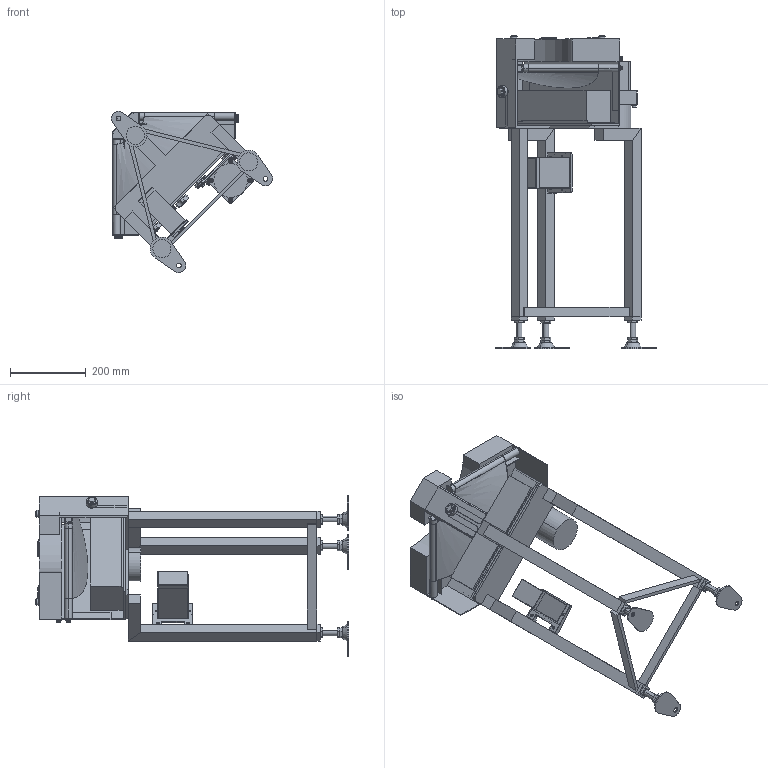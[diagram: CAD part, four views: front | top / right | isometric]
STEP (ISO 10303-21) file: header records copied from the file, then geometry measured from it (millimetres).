
FILE_DESCRIPTION (( 'STEP AP214' ), '1' );
FILE_NAME ('GBC90-HS100-IV-R.STEP', '2024-01-18T00:12:52', ( '' ), ( '' ), 'SwSTEP 2.0', 'SolidWorks 2017', '' );
FILE_SCHEMA (( 'AUTOMOTIVE_DESIGN' ));
Length unit declared in the file: millimetre
Products named in the file (1): GBC90-HS100-IV-R
Bounding box: 426.08 x 827.92 x 426.08 mm (x, y, z)
Volume: 10856791.9 mm3; surface area: 1594745.9 mm2
Topology: 75 solids, 75 shells, 1512 faces, 3453 edges, 2158 vertices
Faces by surface type: plane 813, cylinder 405, cone 163, bspline 69, torus 48, sphere 14
Entity records: 51314 total; most frequent: CARTESIAN_POINT 16491, DIRECTION 7107, ORIENTED_EDGE 6826, EDGE_CURVE 3413, AXIS2_PLACEMENT_3D 2586, VERTEX_POINT 2158, VECTOR 1935, LINE 1935
